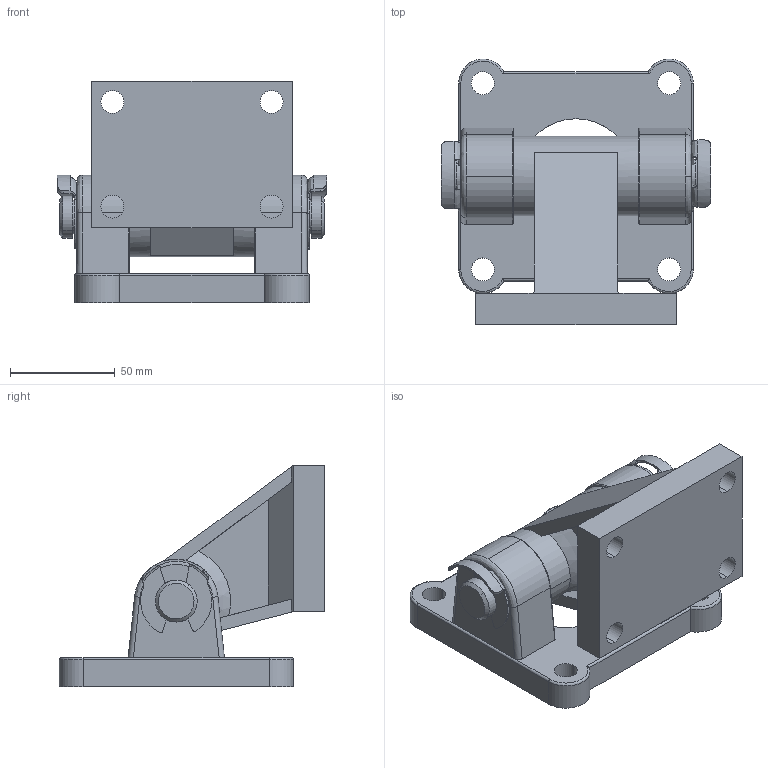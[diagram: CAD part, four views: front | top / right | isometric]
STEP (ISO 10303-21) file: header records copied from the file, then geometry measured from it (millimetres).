
FILE_DESCRIPTION (( 'STEP AP214' ), '1' );
FILE_NAME ('100_EYB.STEP', '2020-12-04T18:51:20', ( '' ), ( '' ), 'SwSTEP 2.0', 'SolidWorks 2021', '' );
FILE_SCHEMA (( 'AUTOMOTIVE_DESIGN' ));
Length unit declared in the file: millimetre
Products named in the file (5): 100 KL¦PS; ÃAP 100  YER BAº. (CFM); 100_EYB; 100  SWIVEL  FLANGE; 100  EB  P危囝Varsay烽an
Assembly tree (5 placements, depth 2):
  100_EYB
    100  EB  P危囝Varsay烽an
    100 KL¦PS  x2
    ÃAP 100  YER BAº. (CFM)
    100  SWIVEL  FLANGE
Bounding box: 128.5 x 126.96 x 106 mm (x, y, z)
Volume: 453241.3 mm3; surface area: 92756.7 mm2
Topology: 5 solids, 5 shells, 188 faces, 484 edges, 310 vertices
Faces by surface type: cylinder 95, plane 67, bspline 18, cone 8
Entity records: 7185 total; most frequent: CARTESIAN_POINT 1606, DIRECTION 792, ORIENTED_EDGE 776, EDGE_CURVE 388, AXIS2_PLACEMENT_3D 304, VERTEX_POINT 248, LINE 184, VECTOR 184
